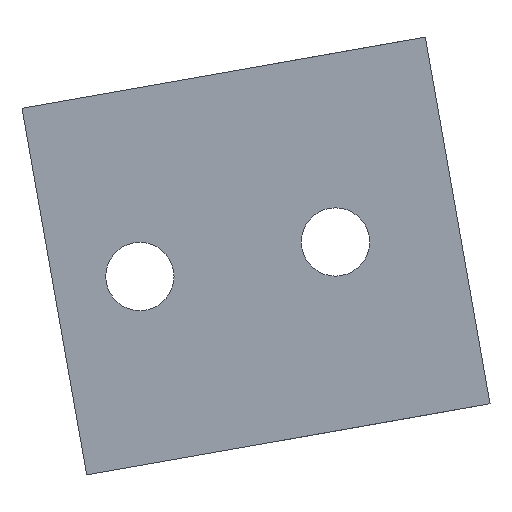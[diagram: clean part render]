
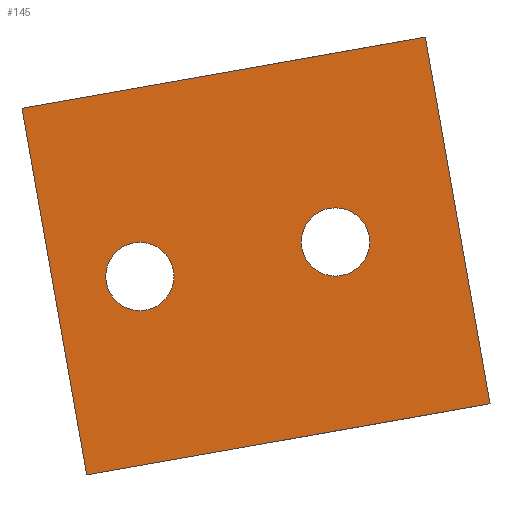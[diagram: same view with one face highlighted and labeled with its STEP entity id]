
A CAD part, left-side view. The second image highlights one B-rep face of the part: STEP entity #145.
In plain terms, the highlighted planar face has unit normal (-1, 0, 0).
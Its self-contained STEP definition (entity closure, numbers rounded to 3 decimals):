
#84=CARTESIAN_POINT('',(-173.,-788.441,576.97));
#85=DIRECTION('',(-1.0,0.0,0.0));
#86=DIRECTION('',(0.0,-0.174,-0.985));
#87=AXIS2_PLACEMENT_3D('',#84,#85,#86);
#88=PLANE('',#87);
#89=CARTESIAN_POINT('',(-173.,-788.441,576.97));
#90=VERTEX_POINT('',#89);
#91=CARTESIAN_POINT('',(-173.,-793.651,547.426));
#92=VERTEX_POINT('',#91);
#93=CARTESIAN_POINT('',(-173.,-788.441,576.97));
#94=DIRECTION('',(0.,-0.174,-0.985));
#95=VECTOR('',#94,1.);
#96=LINE('',#93,#95);
#97=EDGE_CURVE('',#90,#92,#96,.T.);
#98=ORIENTED_EDGE('',*,*,#97,.T.);
#99=CARTESIAN_POINT('',(-173.,-826.149,553.157));
#100=VERTEX_POINT('',#99);
#101=CARTESIAN_POINT('',(-173.,-793.651,547.426));
#102=DIRECTION('',(0.0,-0.985,0.174));
#103=VECTOR('',#102,1.);
#104=LINE('',#101,#103);
#105=EDGE_CURVE('',#92,#100,#104,.T.);
#106=ORIENTED_EDGE('',*,*,#105,.T.);
#107=CARTESIAN_POINT('',(-173.,-820.94,582.701));
#108=VERTEX_POINT('',#107);
#109=CARTESIAN_POINT('',(-173.,-820.94,582.701));
#110=DIRECTION('',(0.,-0.174,-0.985));
#111=VECTOR('',#110,1.);
#112=LINE('',#109,#111);
#113=EDGE_CURVE('',#108,#100,#112,.T.);
#114=ORIENTED_EDGE('',*,*,#113,.F.);
#115=CARTESIAN_POINT('',(-173.,-788.441,576.97));
#116=DIRECTION('',(0.0,-0.985,0.174));
#117=VECTOR('',#116,1.);
#118=LINE('',#115,#117);
#119=EDGE_CURVE('',#90,#108,#118,.T.);
#120=ORIENTED_EDGE('',*,*,#119,.F.);
#121=EDGE_LOOP('',(#98,#106,#114,#120));
#122=FACE_OUTER_BOUND('',#121,.T.);
#123=CARTESIAN_POINT('',(-173.,-797.462,566.122));
#124=VERTEX_POINT('',#123);
#125=CARTESIAN_POINT('',(-173.,-797.939,563.414));
#126=DIRECTION('',(1.0,0.,0.));
#127=DIRECTION('',(0.,0.174,0.985));
#128=AXIS2_PLACEMENT_3D('',#125,#126,#127);
#129=CIRCLE('',#128,2.75);
#130=EDGE_CURVE('',#124,#124,#129,.T.);
#131=ORIENTED_EDGE('',*,*,#130,.T.);
#132=EDGE_LOOP('',(#131));
#133=FACE_BOUND('',#132,.T.);
#134=CARTESIAN_POINT('',(-173.,-813.219,568.9));
#135=VERTEX_POINT('',#134);
#136=CARTESIAN_POINT('',(-173.,-813.696,566.192));
#137=DIRECTION('',(1.0,0.,0.));
#138=DIRECTION('',(0.,0.174,0.985));
#139=AXIS2_PLACEMENT_3D('',#136,#137,#138);
#140=CIRCLE('',#139,2.75);
#141=EDGE_CURVE('',#135,#135,#140,.T.);
#142=ORIENTED_EDGE('',*,*,#141,.T.);
#143=EDGE_LOOP('',(#142));
#144=FACE_BOUND('',#143,.T.);
#145=ADVANCED_FACE('',(#122,#133,#144),#88,.T.);
